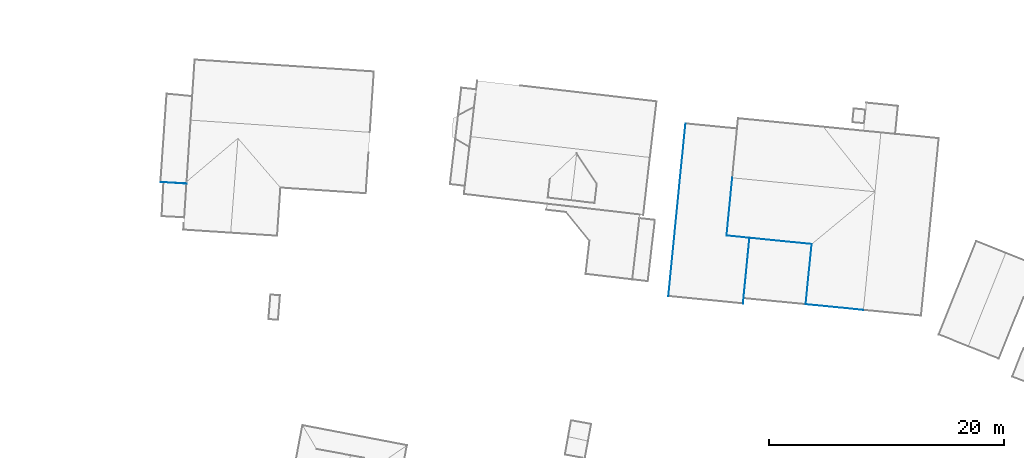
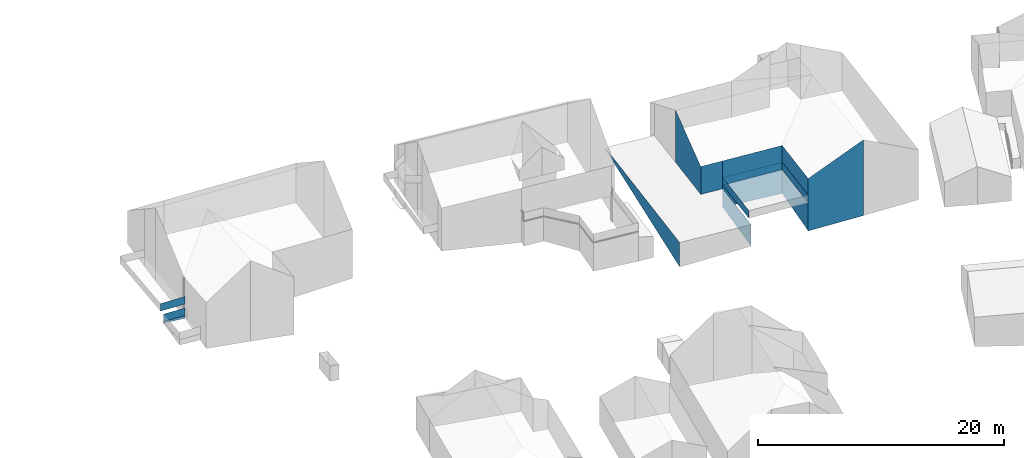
# Not in any storey, part 37 of 57: 18 walls.
"""IFC2X3 building model written with IfcOpenShell, lengths in metres."""

import ifcopenshell
import ifcopenshell.guid

model = None  # the IFC model being written
_history = None  # IfcOwnerHistory: only IFC2X3 demands one
_inside = {}  # id of a spatial element -> (the spatial element, [elements in it])
_under = {}  # id of a project, library or spatial element -> (it, [spatial elements below it])
_declared = {}  # id of a project -> (the project, [libraries it declares])
_typed = {}  # id of a type object -> (the type object, [elements of that type])
_made_of = {}  # id of a material, layer set ... -> (it, [elements and type objects made of it])


def new_model(schema):
    """Start an empty IFC model of exactly this schema.

    Asked for "IFC4X3", IfcOpenShell would pick the latest addendum, in which some entities
    have other attributes; the version numbers below select the first issue.
    IFC2X3 requires an IfcOwnerHistory on every rooted entity: one is made here for all.
    """
    global model, _history
    if schema == "IFC4X3":
        model = ifcopenshell.file(schema_version=(4, 3, 0, 0))
    else:
        model = ifcopenshell.file(schema=schema)
    _inside.clear()
    _under.clear()
    _declared.clear()
    _typed.clear()
    _made_of.clear()
    _history = None
    if model.schema == "IFC2X3":
        org = make("IfcOrganization", Name="unknown")
        user = make(
            "IfcPersonAndOrganization",
            ThePerson=make("IfcPerson", FamilyName="unknown"),
            TheOrganization=org,
        )
        app = make(
            "IfcApplication",
            ApplicationDeveloper=org,
            Version="unknown",
            ApplicationFullName="unknown",
            ApplicationIdentifier="unknown",
        )
        _history = make(
            "IfcOwnerHistory",
            OwningUser=user,
            OwningApplication=app,
            ChangeAction="ADDED",
            CreationDate=0,
        )
    return model


def make(cls, **values):
    """One entity of the class cls with the attributes given. An attribute that is None is left unset."""
    return model.create_entity(
        cls, **{name: value for name, value in values.items() if value is not None}
    )


def entity(cls, *values):
    """Any entity or typed value of the class cls, its attributes in the order of the schema. None: left unset."""
    e = model.create_entity(cls)
    for i, value in enumerate(values):
        if value is not None:
            e[i] = value
    return e


def rooted(cls, **values):
    """An entity with a GlobalId (a new one), such as an element, a storey or a relation."""
    return make(cls, GlobalId=ifcopenshell.guid.new(), OwnerHistory=_history, **values)


def si_unit(unit_type, name, prefix=None):
    """IfcSIUnit, for example si_unit("LENGTHUNIT", "METRE", prefix="MILLI")."""
    return make("IfcSIUnit", UnitType=unit_type, Prefix=prefix, Name=name)


def converted_unit(unit_type, name, factor, base, dimensions=None, offset=None):
    """IfcConversionBasedUnit, such as the inch: factor (a typed value) times the base unit."""
    return make(
        "IfcConversionBasedUnit"
        if offset is None
        else "IfcConversionBasedUnitWithOffset",
        ConversionOffset=offset,
        Dimensions=None
        if dimensions is None
        else entity("IfcDimensionalExponents", *dimensions),
        UnitType=unit_type,
        Name=name,
        ConversionFactor=make(
            "IfcMeasureWithUnit", ValueComponent=factor, UnitComponent=base
        ),
    )


def assignment(units):
    """IfcUnitAssignment: the units of a project."""
    return None if units is None else make("IfcUnitAssignment", Units=units)


def point(xyz):
    """IfcCartesianPoint."""
    return None if xyz is None else make("IfcCartesianPoint", Coordinates=xyz)


def direction(xyz):
    """IfcDirection."""
    return None if xyz is None else make("IfcDirection", DirectionRatios=xyz)


def frame(location, z_axis=None, x_axis=None):
    """IfcAxis2Placement3D, a coordinate frame: its origin and axes. An axis left out is left unset."""
    return make(
        "IfcAxis2Placement3D",
        Location=point(location),
        Axis=direction(z_axis),
        RefDirection=direction(x_axis),
    )


def origin():
    """The frame at (0, 0, 0) with its axes left unset."""
    return frame((0.0, 0.0, 0.0))


def place(relative_to, where):
    """IfcLocalPlacement: puts the frame where relative to a parent placement (None: the world)."""
    return make(
        "IfcLocalPlacement", PlacementRelTo=relative_to, RelativePlacement=where
    )


def context(
    kind, dimensions, precision=None, world=None, true_north=None, identifier=None
):
    """IfcGeometricRepresentationContext, for example the 3D "Model" context."""
    return make(
        "IfcGeometricRepresentationContext",
        ContextIdentifier=identifier,
        ContextType=kind,
        CoordinateSpaceDimension=dimensions,
        Precision=precision,
        WorldCoordinateSystem=world,
        TrueNorth=true_north,
    )


def subcontext(parent, identifier, kind, view, scale=None):
    """IfcGeometricRepresentationSubContext, for example "Body" below "Model"."""
    return make(
        "IfcGeometricRepresentationSubContext",
        ContextIdentifier=identifier,
        ContextType=kind,
        ParentContext=parent,
        TargetScale=scale,
        TargetView=view,
    )


def project(units=None, contexts=None):
    """IfcProject with its units and contexts."""
    return rooted(
        "IfcProject",
        Name="project",
        RepresentationContexts=contexts,
        UnitsInContext=assignment(units),
    )


def spatial(cls, under=None, at=None, **own):
    """A site, building, storey or space (cls), placed at a placement, below another one or the project."""
    s = rooted(cls, ObjectPlacement=at, **own)
    if under is not None:
        _under.setdefault(under.id(), (under, []))[1].append(s)
    return s


def faces_of(points, faces, orient=None, outer=None):
    """IfcFace entities. A face is a list of loops; a loop is a list of indices into points, from 0.

    orient and outer hold one flag for each loop. By default every Orientation is true, the
    first loop of a face is its IfcFaceOuterBound and the others are IfcFaceBound.
    """
    made = []
    for i, loops in enumerate(faces):
        bounds = []
        for j, loop in enumerate(loops):
            is_outer = j == 0 if outer is None else outer[i][j]
            bounds.append(
                make(
                    "IfcFaceOuterBound" if is_outer else "IfcFaceBound",
                    Bound=make("IfcPolyLoop", Polygon=[points[k] for k in loop]),
                    Orientation=True if orient is None else orient[i][j],
                )
            )
        made.append(make("IfcFace", Bounds=bounds))
    return made


def face_set(faces, orient=None, outer=None):
    """The faces of one IfcConnectedFaceSet. surface_model builds it on its shared points."""
    return ("IfcConnectedFaceSet", faces, orient, outer)


def surface_model(cls, points, shells):
    """IfcFaceBasedSurfaceModel or IfcShellBasedSurfaceModel (cls): surfaces that need not close."""
    shared = [point(p) for p in points]
    made = [make(c, CfsFaces=faces_of(shared, fs, o, b)) for c, fs, o, b in shells]
    if cls == "IfcFaceBasedSurfaceModel":
        return make(cls, FbsmFaces=made)
    return make(cls, SbsmBoundary=made)


def shape(context_of_items, identifier, shape_type, items):
    """IfcShapeRepresentation: the items that make up one representation, for example the "Body"."""
    return make(
        "IfcShapeRepresentation",
        ContextOfItems=context_of_items,
        RepresentationIdentifier=identifier,
        RepresentationType=shape_type,
        Items=items,
    )


def made_of(thing, what):
    """Note that an element or type object is made of a material, layer set ...; save() writes the relation."""
    if what is not None:
        _made_of.setdefault(what.id(), (what, []))[1].append(thing)
    return thing


def element(
    cls,
    number,
    at=None,
    inside=None,
    cuts=None,
    type_object=None,
    material=None,
    context=None,
    identifier="Body",
    shape_type=None,
    held_by="IfcProductDefinitionShape",
    body=None,
    shapes=None,
    **own,
):
    """One element of the class cls, such as IfcWall. Its Tag is "e" and its number.

    at: its placement. inside: the storey or other place that contains it. cuts: it is an
    opening in that element (IfcRelVoidsElement). A single representation is given by context,
    identifier, shape_type and body (its items); several are given by shapes. held_by: the class
    of the entity that holds the representations. save() writes the other relations.
    """
    e = rooted(cls, Tag="e%d" % number, ObjectPlacement=at, **own)
    if body is not None:
        shapes = [shape(context, identifier, shape_type, body)]
    if shapes is not None:
        e.Representation = make(held_by, Representations=shapes)
    if inside is not None:
        _inside.setdefault(inside.id(), (inside, []))[1].append(e)
    if cuts is not None:
        rooted(
            "IfcRelVoidsElement", RelatingBuildingElement=cuts, RelatedOpeningElement=e
        )
    if type_object is not None:
        _typed.setdefault(type_object.id(), (type_object, []))[1].append(e)
    return made_of(e, material)


def aggregate(whole, parts):
    """IfcRelAggregates: a whole, such as a stair, and the parts it consists of."""
    return rooted("IfcRelAggregates", RelatingObject=whole, RelatedObjects=parts)


def save(model, path):
    """Write the relations noted so far, then the file.

    IfcRelAggregates (storeys below a building ...), IfcRelContainedInSpatialStructure (elements
    in a storey), IfcRelDefinesByType, IfcRelAssociatesMaterial and IfcRelDeclares: one each for
    every whole, place, type object, material and project.
    """
    for whole, parts in _under.values():
        aggregate(whole, parts)
    for where, things in _inside.values():
        rooted(
            "IfcRelContainedInSpatialStructure",
            RelatedElements=things,
            RelatingStructure=where,
        )
    for kind, things in _typed.values():
        rooted("IfcRelDefinesByType", RelatedObjects=things, RelatingType=kind)
    for what, things in _made_of.values():
        rooted("IfcRelAssociatesMaterial", RelatedObjects=things, RelatingMaterial=what)
    for by, libraries in _declared.values():
        rooted("IfcRelDeclares", RelatingContext=by, RelatedDefinitions=libraries)
    model.write(path)


model = new_model("IFC2X3")

# Units and contexts
model_context = context("Model", 3, precision=1e-05, world=origin())
body_context = subcontext(model_context, "Body", "Model", "MODEL_VIEW")
ifc_project = project(units=[converted_unit("PLANEANGLEUNIT", "DEGREE", entity("IfcRatioMeasure", 0.0174532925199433), si_unit("PLANEANGLEUNIT", "RADIAN"), dimensions=[0, 0, 0, 0, 0, 0, 0]), si_unit("AREAUNIT", "SQUARE_METRE"), si_unit("LENGTHUNIT", "METRE")], contexts=[model_context])

# Site, building
site_placement = place(None, origin())
site = spatial("IfcSite", under=ifc_project, at=site_placement, Name="_site", CompositionType="ELEMENT")
building_1_placement = place(site_placement, origin())
building_1 = spatial("IfcBuilding", under=site, at=building_1_placement, Name="_building", CompositionType="ELEMENT")

# Walls
wall_1_placement = place(building_1_placement, origin())
element("IfcWall", 1, at=wall_1_placement, inside=building_1, Name="Wall", context=body_context, shape_type="SurfaceModel", body=[
    surface_model("IfcFaceBasedSurfaceModel", [(209.838, 149.285, 113.19), (211.787, 149.159, 113.19), (211.787, 149.159, 112.911), (209.838, 149.285, 113.05)], [face_set([[[0, 1, 2, 3]]])]),
])
wall_2_placement = place(building_1_placement, origin())
element("IfcWall", 2, at=wall_2_placement, inside=building_1, Name="Wall", context=body_context, shape_type="SurfaceModel", body=[
    surface_model("IfcFaceBasedSurfaceModel", [(209.838, 149.285, 113.19), (211.787, 149.159, 113.19), (211.787, 149.159, 113.94), (209.838, 149.285, 113.94)], [face_set([[[0, 1, 2, 3]]])]),
])
wall_3_placement = place(building_1_placement, origin())
element("IfcWall", 3, at=wall_3_placement, inside=building_1, Name="Wall", context=body_context, shape_type="SurfaceModel", body=[
    surface_model("IfcFaceBasedSurfaceModel", [(211.789, 149.179, 114.32), (209.578, 149.301, 114.32), (209.578, 149.301, 115.07), (211.789, 149.179, 115.07)], [face_set([[[0, 1, 2, 3]]])]),
])
wall_4_placement = place(building_1_placement, origin())
element("IfcWall", 4, at=wall_4_placement, inside=building_1, Name="Wall", context=body_context, shape_type="SurfaceModel", body=[
    surface_model("IfcFaceBasedSurfaceModel", [(209.838, 149.285, 113.19), (211.787, 149.159, 113.19), (211.787, 149.159, 113.94), (209.838, 149.285, 113.94)], [face_set([[[0, 1, 2, 3]]])]),
])
wall_5_placement = place(building_1_placement, origin())
element("IfcWall", 5, at=wall_5_placement, inside=building_1, Name="Wall", context=body_context, shape_type="SurfaceModel", body=[
    surface_model("IfcFaceBasedSurfaceModel", [(211.789, 149.179, 114.32), (209.578, 149.301, 114.32), (209.578, 149.301, 115.07), (211.789, 149.179, 115.07)], [face_set([[[0, 1, 2, 3]]])]),
])

# Building
building_2_placement = place(site_placement, origin())
building_2 = spatial("IfcBuilding", under=site, at=building_2_placement, Name="_building", CompositionType="ELEMENT")

# Walls
wall_6_placement = place(building_2_placement, origin())
element("IfcWall", 6, at=wall_6_placement, inside=building_2, Name="Wall", context=body_context, shape_type="SurfaceModel", body=[
    surface_model("IfcFaceBasedSurfaceModel", [(264.879, 144.034, 114.59), (259.598, 144.558, 114.59), (259.598, 144.558, 109.998), (264.879, 144.034, 109.824)], [face_set([[[0, 1, 2, 3]]])]),
])
wall_7_placement = place(building_2_placement, origin())
element("IfcWall", 7, at=wall_7_placement, inside=building_2, Name="Wall", context=body_context, shape_type="SurfaceModel", body=[
    surface_model("IfcFaceBasedSurfaceModel", [(257.652, 144.754, 114.59), (258.136, 149.665, 117.01), (258.136, 149.665, 111.846), (257.652, 144.754, 111.83)], [face_set([[[0, 1, 2, 3]]])]),
])
wall_8_placement = place(building_2_placement, origin())
element("IfcWall", 8, at=wall_8_placement, inside=building_2, Name="Wall", context=body_context, shape_type="SurfaceModel", body=[
    surface_model("IfcFaceBasedSurfaceModel", [(259.598, 144.558, 114.59), (257.652, 144.754, 114.59), (257.652, 144.754, 111.83), (259.598, 144.558, 111.83)], [face_set([[[0, 1, 2, 3]]])]),
])
wall_9_placement = place(building_2_placement, origin())
element("IfcWall", 9, at=wall_9_placement, inside=building_2, Name="Wall", context=body_context, shape_type="SurfaceModel", body=[
    surface_model("IfcFaceBasedSurfaceModel", [(269.271, 138.438, 117.01), (264.369, 138.922, 114.59), (264.369, 138.922, 109.387), (269.271, 138.438, 109.487)], [face_set([[[0, 1, 2, 3]]])]),
])
wall_10_placement = place(building_2_placement, origin())
element("IfcWall", 10, at=wall_10_placement, inside=building_2, Name="Wall", context=body_context, shape_type="SurfaceModel", body=[
    surface_model("IfcFaceBasedSurfaceModel", [(252.709, 139.616, 111.89), (254.162, 154.271, 111.93), (254.162, 154.271, 111.8), (252.709, 139.616, 109.462)], [face_set([[[0, 1, 2, 3]]])]),
])
wall_11_placement = place(building_2_placement, origin())
element("IfcWall", 11, at=wall_11_placement, inside=building_2, Name="Wall", context=body_context, shape_type="SurfaceModel", body=[
    surface_model("IfcFaceBasedSurfaceModel", [(259.598, 144.558, 111.83), (259.048, 138.987, 111.83), (259.048, 138.987, 109.688), (259.598, 144.558, 109.998)], [face_set([[[0, 1, 2, 3]]])]),
])
wall_12_placement = place(building_2_placement, origin())
element("IfcWall", 12, at=wall_12_placement, inside=building_2, Name="Wall", context=body_context, shape_type="SurfaceModel", body=[
    surface_model("IfcFaceBasedSurfaceModel", [(264.369, 138.922, 114.59), (264.879, 144.034, 114.59), (264.879, 144.034, 109.824), (264.369, 138.922, 109.387)], [face_set([[[0, 1, 2, 3]]])]),
])
wall_13_placement = place(building_2_placement, origin())
element("IfcWall", 13, at=wall_13_placement, inside=building_2, Name="Wall", context=body_context, shape_type="SurfaceModel", body=[
    surface_model("IfcFaceBasedSurfaceModel", [(264.879, 144.034, 112.19), (264.369, 138.922, 112.19), (264.369, 138.922, 112.94), (264.879, 144.034, 112.94)], [face_set([[[0, 1, 2, 3]]])]),
])
wall_14_placement = place(building_2_placement, origin())
element("IfcWall", 14, at=wall_14_placement, inside=building_2, Name="Wall", context=body_context, shape_type="SurfaceModel", body=[
    surface_model("IfcFaceBasedSurfaceModel", [(259.088, 139.436, 112.19), (259.598, 144.558, 112.19), (259.598, 144.558, 112.94), (259.088, 139.436, 112.94)], [face_set([[[0, 1, 2, 3]]])]),
])
wall_15_placement = place(building_2_placement, origin())
element("IfcWall", 15, at=wall_15_placement, inside=building_2, Name="Wall", context=body_context, shape_type="SurfaceModel", body=[
    surface_model("IfcFaceBasedSurfaceModel", [(259.598, 144.558, 112.19), (264.879, 144.034, 112.19), (264.879, 144.034, 112.94), (259.598, 144.558, 112.94)], [face_set([[[0, 1, 2, 3]]])]),
])
wall_16_placement = place(building_2_placement, origin())
element("IfcWall", 16, at=wall_16_placement, inside=building_2, Name="Wall", context=body_context, shape_type="SurfaceModel", body=[
    surface_model("IfcFaceBasedSurfaceModel", [(264.879, 144.034, 112.19), (264.369, 138.922, 112.19), (264.369, 138.922, 112.94), (264.879, 144.034, 112.94)], [face_set([[[0, 1, 2, 3]]])]),
])
wall_17_placement = place(building_2_placement, origin())
element("IfcWall", 17, at=wall_17_placement, inside=building_2, Name="Wall", context=body_context, shape_type="SurfaceModel", body=[
    surface_model("IfcFaceBasedSurfaceModel", [(259.598, 144.558, 112.19), (264.879, 144.034, 112.19), (264.879, 144.034, 112.94), (259.598, 144.558, 112.94)], [face_set([[[0, 1, 2, 3]]])]),
])
wall_18_placement = place(building_2_placement, origin())
element("IfcWall", 18, at=wall_18_placement, inside=building_2, Name="Wall", context=body_context, shape_type="SurfaceModel", body=[
    surface_model("IfcFaceBasedSurfaceModel", [(259.088, 139.436, 112.19), (259.598, 144.558, 112.19), (259.598, 144.558, 112.94), (259.088, 139.436, 112.94)], [face_set([[[0, 1, 2, 3]]])]),
])

save(model, "model.ifc")
